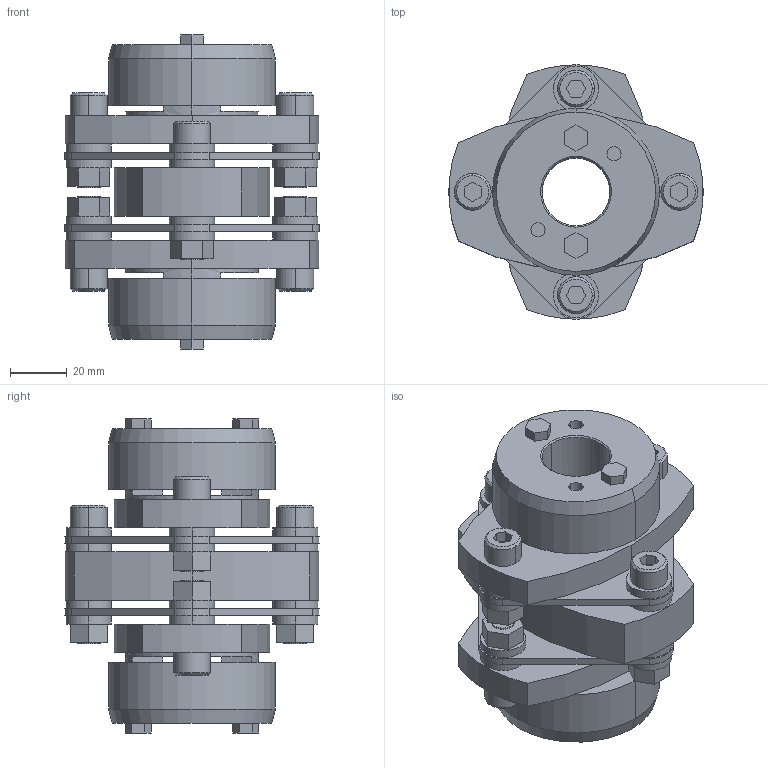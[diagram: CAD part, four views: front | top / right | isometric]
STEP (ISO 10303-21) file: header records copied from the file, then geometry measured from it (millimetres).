
FILE_DESCRIPTION((''),'2;1');
FILE_NAME('LCD-90T7-24×24.stp','2015-11-01T19:26:46',(''),(''),'AutoCAD STEP 2000i','AutoCAD 2000i',', , ');
FILE_SCHEMA(('CONFIG_CONTROL_DESIGN'));
Length unit declared in the file: millimetre
Products named in the file (7): LCD-90T7-25×25; 忣兜1; LC90T7-T025-1; LC90T7-T025; LC90T7-T019-1; LC90T7-T019; LCD90-ITA
Assembly tree (6 placements, depth 2):
  LCD-90T7-25×25
    忣兜1
    LC90T7-T025-1
    LC90T7-T025
    LC90T7-T019-1
    LC90T7-T019
    LCD90-ITA
Bounding box: 90 x 89.94 x 111 mm (x, y, z)
Volume: 268878.3 mm3; surface area: 73265.4 mm2
Topology: 1 solids, 1 shells, 306 faces, 744 edges, 488 vertices
Faces by surface type: plane 162, cylinder 120, cone 24
Entity records: 9247 total; most frequent: DIRECTION 1650, CARTESIAN_POINT 1545, ORIENTED_EDGE 1488, EDGE_CURVE 744, AXIS2_PLACEMENT_3D 593, VERTEX_POINT 488, VECTOR 464, LINE 464
